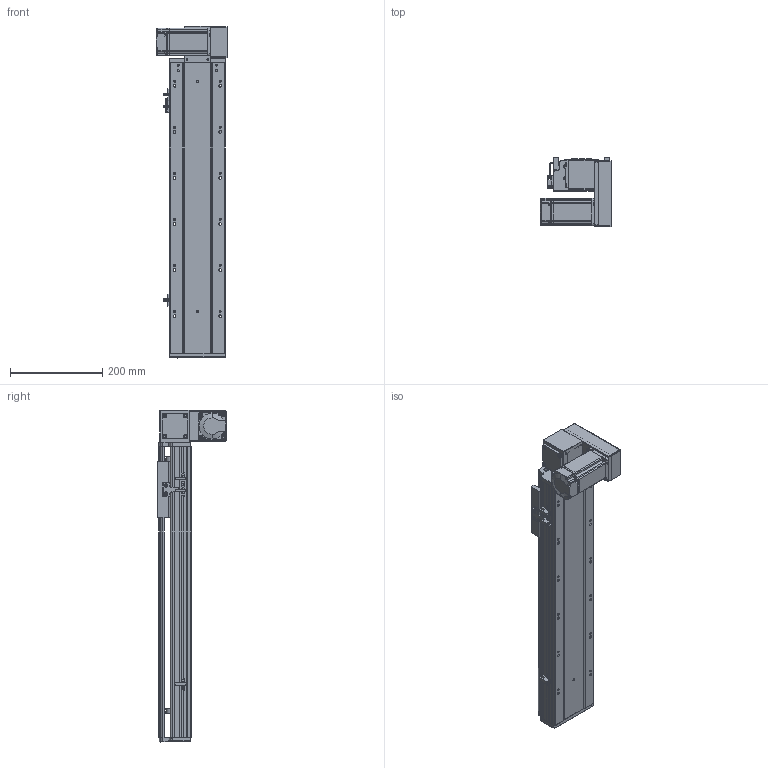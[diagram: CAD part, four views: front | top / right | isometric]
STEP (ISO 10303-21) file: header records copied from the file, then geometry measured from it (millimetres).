
FILE_DESCRIPTION (( 'STEP AP203' ), '1' );
FILE_NAME ('RY120-T-300-DR.SLDASM_400.step', '2021-03-01T03:34:43', ( '盈信电脑' ), ( '东莞市道滘镇水果街19号' ), 'SwSTEP 2.0', 'SolidWorks 2012', '' );
FILE_SCHEMA (( 'CONFIG_CONTROL_DESIGN' ));
Length unit declared in the file: millimetre
Products named in the file (17): RY120-T-300-DR.SLDASM_400; RY120-T萇儂欶; RY120-T主同步轮轴承压盖; RY120-T蹟翐M4; RY120-T萇儂假蚾啣; RY120-T翋肮祭謫裔啣; 滅袉蝶18-10; 15; RY120-T翋肮祭盓傅釱; RY120-T肮祭湍揤踡輸1; RY120外置感应片(140共用）; RY120-T肮祭湍揤踡輸2; RY120肮祭湍臏賑輸; RY120-T-300-DR倰第奻裔啣_400; 覜茼ん672; RY120綴裔啣; RY120-T-300-DR倰第菁釱_400
Assembly tree (22 placements, depth 2):
  RY120-T-300-DR.SLDASM_400
    RY120-T-300-DR倰第菁釱_400
    RY120-T-300-DR倰第奻裔啣_400
    RY120肮祭湍臏賑輸
    RY120綴裔啣
    覜茼ん672  x3
    RY120外置感应片(140共用）
    RY120-T肮祭湍揤踡輸1
    RY120-T肮祭湍揤踡輸2
    RY120-T翋肮祭盓傅釱
    滅袉蝶18-10  x2
    RY120-T翋肮祭謫裔啣
    15
    RY120-T萇儂假蚾啣
    RY120-T蹟翐M4  x4
    RY120-T萇儂欶
    RY120-T主同步轮轴承压盖
Bounding box: 155.5 x 150 x 721 mm (x, y, z)
Volume: 2301526.8 mm3; surface area: 830558.6 mm2
Topology: 23 solids, 23 shells, 2698 faces, 7348 edges, 4732 vertices
Faces by surface type: plane 1402, cylinder 996, cone 211, bspline 89
Entity records: 85567 total; most frequent: CARTESIAN_POINT 21566, ORIENTED_EDGE 13192, DIRECTION 12470, EDGE_CURVE 6596, VERTEX_POINT 4319, LINE 4184, VECTOR 4184, AXIS2_PLACEMENT_3D 4143
